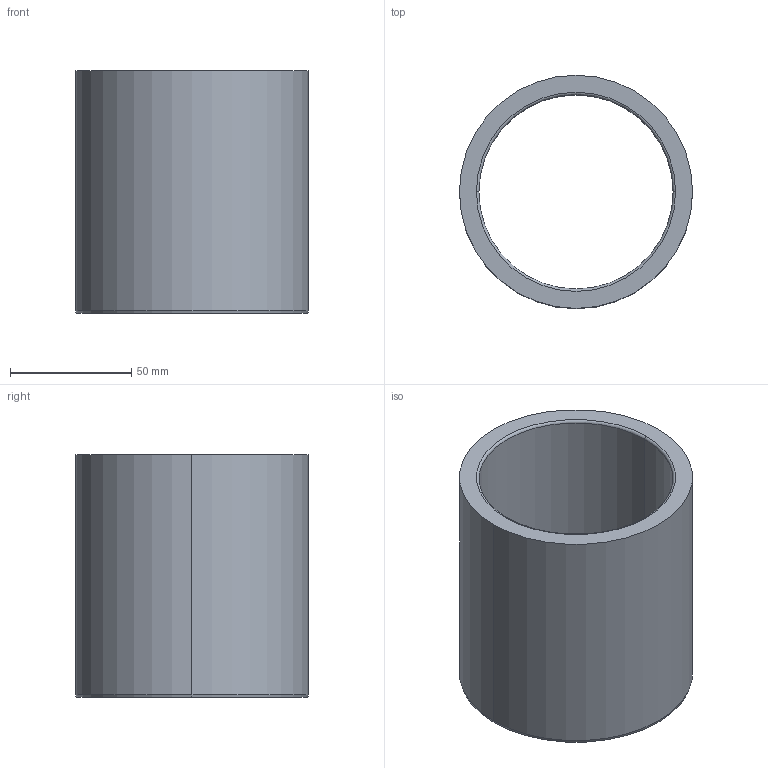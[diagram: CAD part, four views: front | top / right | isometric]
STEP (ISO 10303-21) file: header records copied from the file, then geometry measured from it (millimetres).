
FILE_DESCRIPTION(('CATIA V5 STEP'),'2;1');
FILE_NAME('\\GSBFILE\data\URETIM\3D DATALAR\Step Dosyaları\Kılavuz Elemanları\G212-01-080096100.stp','2020-08-24T10:48:04+00:00',('none'),('none'),'CATIA Version 5-6 Release 2019 SP3','CATIA V5 STEP AP203 v1','none');
FILE_SCHEMA(('CONFIG_CONTROL_DESIGN'));
Length unit declared in the file: millimetre
Products named in the file (1): G212-01-080096100
Bounding box: 96 x 96 x 100 mm (x, y, z)
Volume: 221019.3 mm3; surface area: 59429.7 mm2
Topology: 1 solids, 1 shells, 12 faces, 24 edges, 14 vertices
Faces by surface type: cylinder 4, torus 4, plane 2, cone 2
Entity records: 335 total; most frequent: CARTESIAN_POINT 49, ORIENTED_EDGE 48, DIRECTION 44, AXIS2_PLACEMENT_3D 29, EDGE_CURVE 24, CIRCLE 18, EDGE_LOOP 14, VERTEX_POINT 14
